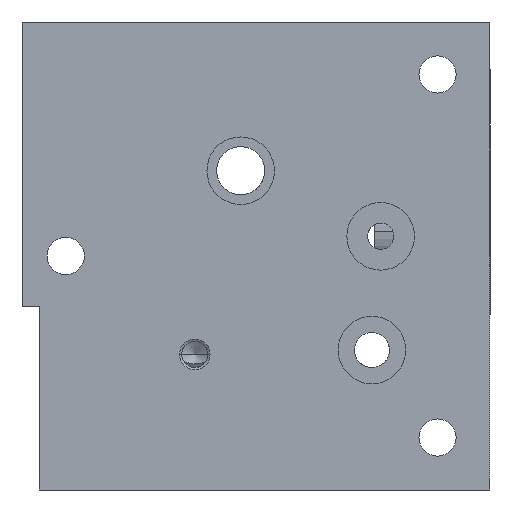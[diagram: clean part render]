
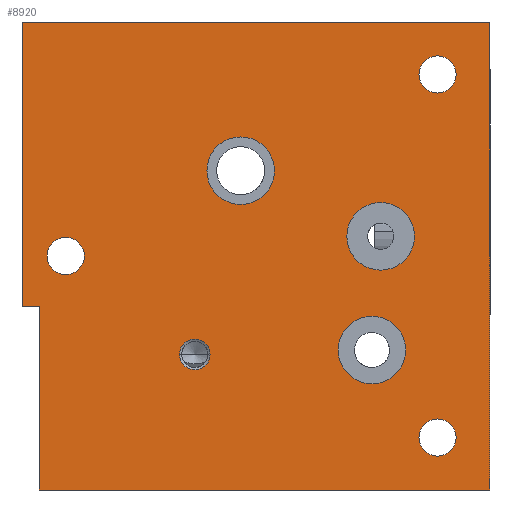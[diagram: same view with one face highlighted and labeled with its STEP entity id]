
A CAD part, left-side view. The second image highlights one B-rep face of the part: STEP entity #8920.
In plain terms, the highlighted planar face has unit normal (-1, 0, 0).
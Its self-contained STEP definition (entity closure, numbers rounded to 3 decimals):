
#25=DIRECTION('',(0.,0.,1.));
#26=VECTOR('',#25,42.);
#27=CARTESIAN_POINT('',(0.,103.,-107.));
#28=LINE('',#27,#26);
#33=DIRECTION('',(0.,-1.,0.));
#34=VECTOR('',#33,4.);
#35=CARTESIAN_POINT('',(0.,107.,-65.));
#36=LINE('',#35,#34);
#40=DIRECTION('',(0.,0.,1.));
#41=VECTOR('',#40,65.);
#42=CARTESIAN_POINT('',(0.,107.,-65.));
#43=LINE('',#42,#41);
#47=DIRECTION('',(0.,-1.,0.));
#48=VECTOR('',#47,107.);
#49=CARTESIAN_POINT('',(0.,107.,0.));
#50=LINE('',#49,#48);
#54=DIRECTION('',(0.,0.,-1.));
#55=VECTOR('',#54,107.);
#56=CARTESIAN_POINT('',(0.,0.,0.));
#57=LINE('',#56,#55);
#61=DIRECTION('',(0.,1.,0.));
#62=VECTOR('',#61,103.);
#63=CARTESIAN_POINT('',(0.,0.,-107.));
#64=LINE('',#63,#62);
#68=CARTESIAN_POINT('',(0.,12.,-12.));
#69=DIRECTION('',(1.,0.,0.));
#70=DIRECTION('',(0.,1.,0.));
#71=AXIS2_PLACEMENT_3D('',#68,#69,#70);
#76=CARTESIAN_POINT('',(0.,12.,-12.));
#77=DIRECTION('',(1.,0.,0.));
#78=DIRECTION('',(0.,-1.,0.));
#79=AXIS2_PLACEMENT_3D('',#76,#77,#78);
#84=CARTESIAN_POINT('',(0.,12.,-95.));
#85=DIRECTION('',(1.,0.,0.));
#86=DIRECTION('',(0.,1.,0.));
#87=AXIS2_PLACEMENT_3D('',#84,#85,#86);
#92=CARTESIAN_POINT('',(0.,12.,-95.));
#93=DIRECTION('',(1.,0.,0.));
#94=DIRECTION('',(0.,-1.,0.));
#95=AXIS2_PLACEMENT_3D('',#92,#93,#94);
#100=CARTESIAN_POINT('',(0.,97.,-53.5));
#101=DIRECTION('',(1.,0.,0.));
#102=DIRECTION('',(0.,1.,0.));
#103=AXIS2_PLACEMENT_3D('',#100,#101,#102);
#108=CARTESIAN_POINT('',(0.,97.,-53.5));
#109=DIRECTION('',(1.,0.,0.));
#110=DIRECTION('',(0.,-1.,0.));
#111=AXIS2_PLACEMENT_3D('',#108,#109,#110);
#116=CARTESIAN_POINT('',(0.,27.,-75.));
#117=DIRECTION('',(1.,0.,0.));
#118=DIRECTION('',(0.,1.,0.));
#119=AXIS2_PLACEMENT_3D('',#116,#117,#118);
#124=CARTESIAN_POINT('',(0.,27.,-75.));
#125=DIRECTION('',(1.,0.,0.));
#126=DIRECTION('',(0.,-1.,0.));
#127=AXIS2_PLACEMENT_3D('',#124,#125,#126);
#132=CARTESIAN_POINT('',(0.,57.,-34.));
#133=DIRECTION('',(1.,0.,0.));
#134=DIRECTION('',(0.,1.,0.));
#135=AXIS2_PLACEMENT_3D('',#132,#133,#134);
#140=CARTESIAN_POINT('',(0.,57.,-34.));
#141=DIRECTION('',(1.,0.,0.));
#142=DIRECTION('',(0.,-1.,0.));
#143=AXIS2_PLACEMENT_3D('',#140,#141,#142);
#148=CARTESIAN_POINT('',(0.,25.,-49.));
#149=DIRECTION('',(1.,0.,0.));
#150=DIRECTION('',(0.,1.,0.));
#151=AXIS2_PLACEMENT_3D('',#148,#149,#150);
#156=CARTESIAN_POINT('',(0.,25.,-49.));
#157=DIRECTION('',(1.,0.,0.));
#158=DIRECTION('',(0.,-1.,0.));
#159=AXIS2_PLACEMENT_3D('',#156,#157,#158);
#164=CARTESIAN_POINT('',(0.,67.5,-76.));
#165=DIRECTION('',(-1.,0.,0.));
#166=DIRECTION('',(0.,1.,0.));
#167=AXIS2_PLACEMENT_3D('',#164,#165,#166);
#172=CARTESIAN_POINT('',(0.,67.5,-76.));
#173=DIRECTION('',(-1.,0.,0.));
#174=DIRECTION('',(0.,-1.,0.));
#175=AXIS2_PLACEMENT_3D('',#172,#173,#174);
#8182=CARTESIAN_POINT('',(0.,0.,0.));
#8183=CARTESIAN_POINT('',(0.,0.,-107.));
#8184=VERTEX_POINT('',#8182);
#8185=VERTEX_POINT('',#8183);
#8186=CARTESIAN_POINT('',(0.,107.,0.));
#8187=VERTEX_POINT('',#8186);
#8194=CARTESIAN_POINT('',(0.,16.25,-12.));
#8195=CARTESIAN_POINT('',(0.,7.75,-12.));
#8196=VERTEX_POINT('',#8194);
#8197=VERTEX_POINT('',#8195);
#8202=CARTESIAN_POINT('',(0.,16.25,-95.));
#8203=CARTESIAN_POINT('',(0.,7.75,-95.));
#8204=VERTEX_POINT('',#8202);
#8205=VERTEX_POINT('',#8203);
#8210=CARTESIAN_POINT('',(0.,101.25,-53.5));
#8211=CARTESIAN_POINT('',(0.,92.75,-53.5));
#8212=VERTEX_POINT('',#8210);
#8213=VERTEX_POINT('',#8211);
#8234=CARTESIAN_POINT('',(0.,34.725,-75.));
#8235=CARTESIAN_POINT('',(0.,19.275,-75.));
#8236=VERTEX_POINT('',#8234);
#8237=VERTEX_POINT('',#8235);
#8246=CARTESIAN_POINT('',(0.,64.725,-34.));
#8247=VERTEX_POINT('',#8246);
#8248=CARTESIAN_POINT('',(0.,49.275,-34.));
#8249=VERTEX_POINT('',#8248);
#8258=CARTESIAN_POINT('',(0.,32.725,-49.));
#8259=VERTEX_POINT('',#8258);
#8260=CARTESIAN_POINT('',(0.,17.275,-49.));
#8261=VERTEX_POINT('',#8260);
#8422=CARTESIAN_POINT('',(0.,71.,-76.));
#8423=VERTEX_POINT('',#8422);
#8424=CARTESIAN_POINT('',(0.,64.,-76.));
#8425=VERTEX_POINT('',#8424);
#8801=CARTESIAN_POINT('',(0.,103.,-107.));
#8802=CARTESIAN_POINT('',(0.,103.,-65.));
#8803=VERTEX_POINT('',#8801);
#8804=VERTEX_POINT('',#8802);
#8805=CARTESIAN_POINT('',(0.,107.,-65.));
#8806=VERTEX_POINT('',#8805);
#8859=CARTESIAN_POINT('',(0.,0.,0.));
#8860=DIRECTION('',(1.,0.,0.));
#8861=DIRECTION('',(0.,0.,-1.));
#8862=AXIS2_PLACEMENT_3D('',#8859,#8860,#8861);
#8863=PLANE('',#8862);
#8865=ORIENTED_EDGE('',*,*,#8864,.T.);
#8867=ORIENTED_EDGE('',*,*,#8866,.F.);
#8869=ORIENTED_EDGE('',*,*,#8868,.T.);
#8871=ORIENTED_EDGE('',*,*,#8870,.T.);
#8873=ORIENTED_EDGE('',*,*,#8872,.T.);
#8875=ORIENTED_EDGE('',*,*,#8874,.T.);
#8876=EDGE_LOOP('',(#8865,#8867,#8869,#8871,#8873,#8875));
#8877=FACE_OUTER_BOUND('',#8876,.F.);
#8879=ORIENTED_EDGE('',*,*,#8878,.F.);
#8881=ORIENTED_EDGE('',*,*,#8880,.F.);
#8882=EDGE_LOOP('',(#8879,#8881));
#8883=FACE_BOUND('',#8882,.F.);
#8885=ORIENTED_EDGE('',*,*,#8884,.F.);
#8887=ORIENTED_EDGE('',*,*,#8886,.F.);
#8888=EDGE_LOOP('',(#8885,#8887));
#8889=FACE_BOUND('',#8888,.F.);
#8891=ORIENTED_EDGE('',*,*,#8890,.F.);
#8893=ORIENTED_EDGE('',*,*,#8892,.F.);
#8894=EDGE_LOOP('',(#8891,#8893));
#8895=FACE_BOUND('',#8894,.F.);
#8897=ORIENTED_EDGE('',*,*,#8896,.F.);
#8899=ORIENTED_EDGE('',*,*,#8898,.F.);
#8900=EDGE_LOOP('',(#8897,#8899));
#8901=FACE_BOUND('',#8900,.F.);
#8903=ORIENTED_EDGE('',*,*,#8902,.F.);
#8905=ORIENTED_EDGE('',*,*,#8904,.F.);
#8906=EDGE_LOOP('',(#8903,#8905));
#8907=FACE_BOUND('',#8906,.F.);
#8909=ORIENTED_EDGE('',*,*,#8908,.F.);
#8911=ORIENTED_EDGE('',*,*,#8910,.F.);
#8912=EDGE_LOOP('',(#8909,#8911));
#8913=FACE_BOUND('',#8912,.F.);
#8915=ORIENTED_EDGE('',*,*,#8914,.T.);
#8917=ORIENTED_EDGE('',*,*,#8916,.T.);
#8918=EDGE_LOOP('',(#8915,#8917));
#8919=FACE_BOUND('',#8918,.F.);
#72=CIRCLE('',#71,4.25);
#80=CIRCLE('',#79,4.25);
#88=CIRCLE('',#87,4.25);
#96=CIRCLE('',#95,4.25);
#104=CIRCLE('',#103,4.25);
#112=CIRCLE('',#111,4.25);
#120=CIRCLE('',#119,7.725);
#128=CIRCLE('',#127,7.725);
#136=CIRCLE('',#135,7.725);
#144=CIRCLE('',#143,7.725);
#152=CIRCLE('',#151,7.725);
#160=CIRCLE('',#159,7.725);
#168=CIRCLE('',#167,3.5);
#176=CIRCLE('',#175,3.5);
#8864=EDGE_CURVE('',#8803,#8804,#28,.T.);
#8866=EDGE_CURVE('',#8806,#8804,#36,.T.);
#8868=EDGE_CURVE('',#8806,#8187,#43,.T.);
#8870=EDGE_CURVE('',#8187,#8184,#50,.T.);
#8872=EDGE_CURVE('',#8184,#8185,#57,.T.);
#8874=EDGE_CURVE('',#8185,#8803,#64,.T.);
#8878=EDGE_CURVE('',#8196,#8197,#72,.T.);
#8880=EDGE_CURVE('',#8197,#8196,#80,.T.);
#8884=EDGE_CURVE('',#8204,#8205,#88,.T.);
#8886=EDGE_CURVE('',#8205,#8204,#96,.T.);
#8890=EDGE_CURVE('',#8212,#8213,#104,.T.);
#8892=EDGE_CURVE('',#8213,#8212,#112,.T.);
#8896=EDGE_CURVE('',#8236,#8237,#120,.T.);
#8898=EDGE_CURVE('',#8237,#8236,#128,.T.);
#8902=EDGE_CURVE('',#8247,#8249,#136,.T.);
#8904=EDGE_CURVE('',#8249,#8247,#144,.T.);
#8908=EDGE_CURVE('',#8259,#8261,#152,.T.);
#8910=EDGE_CURVE('',#8261,#8259,#160,.T.);
#8914=EDGE_CURVE('',#8423,#8425,#168,.T.);
#8916=EDGE_CURVE('',#8425,#8423,#176,.T.);
#8920=ADVANCED_FACE('',(#8877,#8883,#8889,#8895,#8901,#8907,#8913,#8919),#8863,
.F.);
